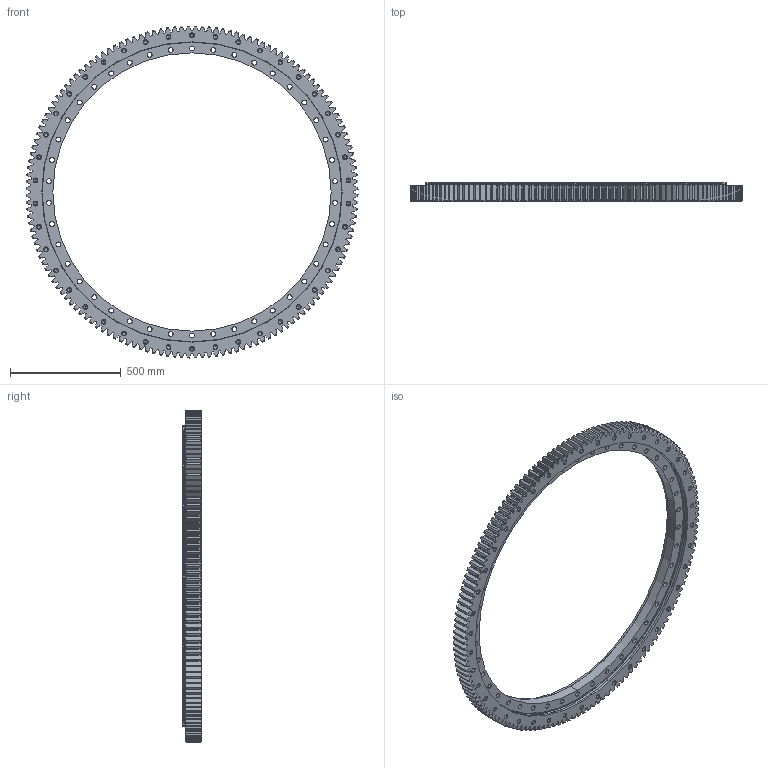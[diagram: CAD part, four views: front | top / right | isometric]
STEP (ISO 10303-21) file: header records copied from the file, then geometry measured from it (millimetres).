
FILE_DESCRIPTION (( 'STEP AP203' ), '1' );
FILE_NAME ('B2125-2-1498CA.STEP', '2025-09-29T13:52:19', ( '' ), ( '' ), 'SwSTEP 2.0', 'SolidWorks 2020', '' );
FILE_SCHEMA (( 'CONFIG_CONTROL_DESIGN' ));
Length unit declared in the file: millimetre
Products named in the file (1): B2125-2-1498CA
Bounding box: 1497.83 x 82 x 1497.83 mm (x, y, z)
Volume: 29101302 mm3; surface area: 2735100.8 mm2
Topology: 2 solids, 2 shells, 1406 faces, 4014 edges, 2578 vertices
Faces by surface type: cone 464, cylinder 338, plane 308, bspline 296
Entity records: 46517 total; most frequent: CARTESIAN_POINT 12355, ORIENTED_EDGE 7860, DIRECTION 6024, EDGE_CURVE 3930, VERTEX_POINT 2578, AXIS2_PLACEMENT_3D 2167, VECTOR 1690, LINE 1690
